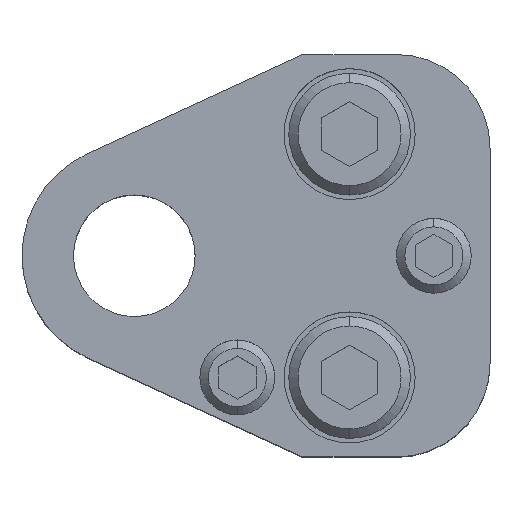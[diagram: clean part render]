
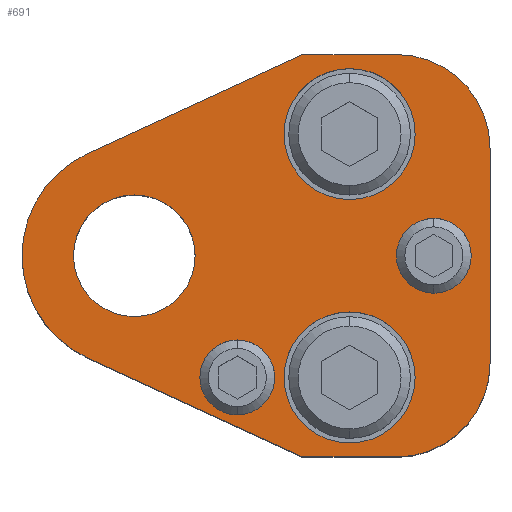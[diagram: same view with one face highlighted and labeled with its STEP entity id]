
A CAD part, top view. The second image highlights one B-rep face of the part: STEP entity #691.
In plain terms, the highlighted planar face has unit normal (0, 0, 1).
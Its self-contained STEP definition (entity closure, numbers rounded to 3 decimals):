
#359=LINE('',#3325,#523);
#363=LINE('',#3334,#527);
#367=LINE('',#3346,#531);
#370=LINE('',#3352,#534);
#374=LINE('',#3364,#538);
#523=VECTOR('',#2652,1.);
#527=VECTOR('',#2658,1.);
#531=VECTOR('',#2670,1.);
#534=VECTOR('',#2675,1.);
#538=VECTOR('',#2687,1.);
#691=ADVANCED_FACE('',(#847,#848,#849,#850,#851,#852),#797,.T.);
#797=PLANE('',#2335);
#847=FACE_BOUND('',#939,.T.);
#848=FACE_BOUND('',#940,.T.);
#849=FACE_BOUND('',#941,.T.);
#850=FACE_BOUND('',#942,.T.);
#851=FACE_BOUND('',#943,.T.);
#852=FACE_BOUND('',#944,.T.);
#939=EDGE_LOOP('',(#1281,#1282,#1283,#1284,#1285,#1286,#1287,#1288));
#940=EDGE_LOOP('',(#1289,#1290));
#941=EDGE_LOOP('',(#1291,#1292));
#942=EDGE_LOOP('',(#1293,#1294));
#943=EDGE_LOOP('',(#1295,#1296));
#944=EDGE_LOOP('',(#1297,#1298));
#1281=ORIENTED_EDGE('',*,*,#1878,.T.);
#1282=ORIENTED_EDGE('',*,*,#1882,.T.);
#1283=ORIENTED_EDGE('',*,*,#1885,.T.);
#1284=ORIENTED_EDGE('',*,*,#1888,.T.);
#1285=ORIENTED_EDGE('',*,*,#1891,.T.);
#1286=ORIENTED_EDGE('',*,*,#1894,.T.);
#1287=ORIENTED_EDGE('',*,*,#1897,.T.);
#1288=ORIENTED_EDGE('',*,*,#1900,.T.);
#1289=ORIENTED_EDGE('',*,*,#1935,.F.);
#1290=ORIENTED_EDGE('',*,*,#1936,.F.);
#1291=ORIENTED_EDGE('',*,*,#1937,.F.);
#1292=ORIENTED_EDGE('',*,*,#1938,.F.);
#1293=ORIENTED_EDGE('',*,*,#1933,.F.);
#1294=ORIENTED_EDGE('',*,*,#1929,.F.);
#1295=ORIENTED_EDGE('',*,*,#1927,.F.);
#1296=ORIENTED_EDGE('',*,*,#1923,.F.);
#1297=ORIENTED_EDGE('',*,*,#1939,.T.);
#1298=ORIENTED_EDGE('',*,*,#1940,.T.);
#1664=VERTEX_POINT('',#3324);
#1665=VERTEX_POINT('',#3326);
#1668=VERTEX_POINT('',#3333);
#1670=VERTEX_POINT('',#3339);
#1672=VERTEX_POINT('',#3345);
#1674=VERTEX_POINT('',#3351);
#1676=VERTEX_POINT('',#3357);
#1678=VERTEX_POINT('',#3363);
#1695=VERTEX_POINT('',#3416);
#1696=VERTEX_POINT('',#3417);
#1699=VERTEX_POINT('',#3429);
#1700=VERTEX_POINT('',#3430);
#1703=VERTEX_POINT('',#3442);
#1704=VERTEX_POINT('',#3443);
#1705=VERTEX_POINT('',#3446);
#1706=VERTEX_POINT('',#3447);
#1707=VERTEX_POINT('',#3450);
#1708=VERTEX_POINT('',#3451);
#1878=EDGE_CURVE('',#1665,#1664,#359,.T.);
#1882=EDGE_CURVE('',#1664,#1668,#363,.T.);
#1885=EDGE_CURVE('',#1668,#1670,#2117,.T.);
#1888=EDGE_CURVE('',#1670,#1672,#367,.T.);
#1891=EDGE_CURVE('',#1672,#1674,#370,.T.);
#1894=EDGE_CURVE('',#1674,#1676,#2119,.T.);
#1897=EDGE_CURVE('',#1676,#1678,#374,.T.);
#1900=EDGE_CURVE('',#1678,#1665,#2122,.T.);
#1923=EDGE_CURVE('',#1695,#1696,#2139,.T.);
#1927=EDGE_CURVE('',#1696,#1695,#2141,.T.);
#1929=EDGE_CURVE('',#1699,#1700,#2143,.T.);
#1933=EDGE_CURVE('',#1700,#1699,#2145,.T.);
#1935=EDGE_CURVE('',#1703,#1704,#2147,.T.);
#1936=EDGE_CURVE('',#1704,#1703,#2148,.T.);
#1937=EDGE_CURVE('',#1705,#1706,#2149,.T.);
#1938=EDGE_CURVE('',#1706,#1705,#2150,.T.);
#1939=EDGE_CURVE('',#1707,#1708,#2151,.T.);
#1940=EDGE_CURVE('',#1708,#1707,#2152,.T.);
#2117=CIRCLE('',#2280,12.);
#2119=CIRCLE('',#2285,10.);
#2122=CIRCLE('',#2290,10.);
#2139=CIRCLE('',#2315,7.);
#2141=CIRCLE('',#2318,7.);
#2143=CIRCLE('',#2322,7.);
#2145=CIRCLE('',#2325,7.);
#2147=CIRCLE('',#2329,4.);
#2148=CIRCLE('',#2330,4.);
#2149=CIRCLE('',#2331,4.);
#2150=CIRCLE('',#2332,4.);
#2151=CIRCLE('',#2333,6.5);
#2152=CIRCLE('',#2334,6.5);
#2280=AXIS2_PLACEMENT_3D('',#3340,#2663,#2664);
#2285=AXIS2_PLACEMENT_3D('',#3358,#2680,#2681);
#2290=AXIS2_PLACEMENT_3D('',#3368,#2693,#2694);
#2315=AXIS2_PLACEMENT_3D('',#3415,#2749,#2750);
#2318=AXIS2_PLACEMENT_3D('',#3424,#2757,#2758);
#2322=AXIS2_PLACEMENT_3D('',#3428,#2765,#2766);
#2325=AXIS2_PLACEMENT_3D('',#3437,#2773,#2774);
#2329=AXIS2_PLACEMENT_3D('',#3441,#2781,#2782);
#2330=AXIS2_PLACEMENT_3D('',#3444,#2783,#2784);
#2331=AXIS2_PLACEMENT_3D('',#3445,#2785,#2786);
#2332=AXIS2_PLACEMENT_3D('',#3448,#2787,#2788);
#2333=AXIS2_PLACEMENT_3D('',#3449,#2789,#2790);
#2334=AXIS2_PLACEMENT_3D('',#3452,#2791,#2792);
#2335=AXIS2_PLACEMENT_3D('',#3453,#2793,#2794);
#2652=DIRECTION('',(-1.,0.,0.));
#2658=DIRECTION('',(-0.908,-0.418,0.));
#2663=DIRECTION('',(0.,0.,1.));
#2664=DIRECTION('',(-0.106,0.994,0.));
#2670=DIRECTION('',(0.908,-0.418,0.));
#2675=DIRECTION('',(1.,0.,0.));
#2680=DIRECTION('',(0.,0.,1.));
#2681=DIRECTION('',(-0.707,0.707,0.));
#2687=DIRECTION('',(0.,1.,0.));
#2693=DIRECTION('',(0.,0.,1.));
#2694=DIRECTION('',(-0.707,-0.707,0.));
#2749=DIRECTION('',(0.,0.,1.));
#2750=DIRECTION('',(-1.,0.,0.));
#2757=DIRECTION('',(0.,0.,1.));
#2758=DIRECTION('',(1.,0.,0.));
#2765=DIRECTION('',(0.,0.,1.));
#2766=DIRECTION('',(-1.,0.,0.));
#2773=DIRECTION('',(0.,0.,1.));
#2774=DIRECTION('',(1.,0.,0.));
#2781=DIRECTION('',(0.,0.,1.));
#2782=DIRECTION('',(1.,0.,0.));
#2783=DIRECTION('',(0.,0.,1.));
#2784=DIRECTION('',(-1.,0.,0.));
#2785=DIRECTION('',(0.,0.,1.));
#2786=DIRECTION('',(1.,0.,0.));
#2787=DIRECTION('',(0.,0.,1.));
#2788=DIRECTION('',(-1.,0.,0.));
#2789=DIRECTION('',(0.,0.,-1.));
#2790=DIRECTION('',(-1.,0.,0.));
#2791=DIRECTION('',(0.,0.,-1.));
#2792=DIRECTION('',(1.,0.,0.));
#2793=DIRECTION('',(0.,0.,1.));
#2794=DIRECTION('',(1.,0.,0.));
#3324=CARTESIAN_POINT('',(18.,21.5,30.));
#3325=CARTESIAN_POINT('',(28.,21.5,30.));
#3326=CARTESIAN_POINT('',(28.,21.5,30.));
#3333=CARTESIAN_POINT('',(-5.019,10.9,30.));
#3334=CARTESIAN_POINT('',(18.,21.5,30.));
#3339=CARTESIAN_POINT('',(-5.019,-10.9,30.));
#3340=CARTESIAN_POINT('',(0.,0.,30.));
#3345=CARTESIAN_POINT('',(18.,-21.5,30.));
#3346=CARTESIAN_POINT('',(18.,-21.5,30.));
#3351=CARTESIAN_POINT('',(28.,-21.5,30.));
#3352=CARTESIAN_POINT('',(28.,-21.5,30.));
#3357=CARTESIAN_POINT('',(38.,-11.5,30.));
#3358=CARTESIAN_POINT('',(28.,-11.5,30.));
#3363=CARTESIAN_POINT('',(38.,11.5,30.));
#3364=CARTESIAN_POINT('',(38.,11.5,30.));
#3368=CARTESIAN_POINT('',(28.,11.5,30.));
#3415=CARTESIAN_POINT('',(23.,-13.,30.));
#3416=CARTESIAN_POINT('',(23.,-20.,30.));
#3417=CARTESIAN_POINT('',(23.,-6.,30.));
#3424=CARTESIAN_POINT('',(23.,-13.,30.));
#3428=CARTESIAN_POINT('',(23.,13.,30.));
#3429=CARTESIAN_POINT('',(23.,6.,30.));
#3430=CARTESIAN_POINT('',(23.,20.,30.));
#3437=CARTESIAN_POINT('',(23.,13.,30.));
#3441=CARTESIAN_POINT('',(11.,-13.,30.));
#3442=CARTESIAN_POINT('',(11.,-9.,30.));
#3443=CARTESIAN_POINT('',(11.,-17.,30.));
#3444=CARTESIAN_POINT('',(11.,-13.,30.));
#3445=CARTESIAN_POINT('',(32.,0.,30.));
#3446=CARTESIAN_POINT('',(32.,4.,30.));
#3447=CARTESIAN_POINT('',(32.,-4.,30.));
#3448=CARTESIAN_POINT('',(32.,0.,30.));
#3449=CARTESIAN_POINT('',(0.,0.,30.));
#3450=CARTESIAN_POINT('',(0.,6.5,30.));
#3451=CARTESIAN_POINT('',(0.,-6.5,30.));
#3452=CARTESIAN_POINT('',(0.,0.,30.));
#3453=CARTESIAN_POINT('',(28.,21.5,30.));
